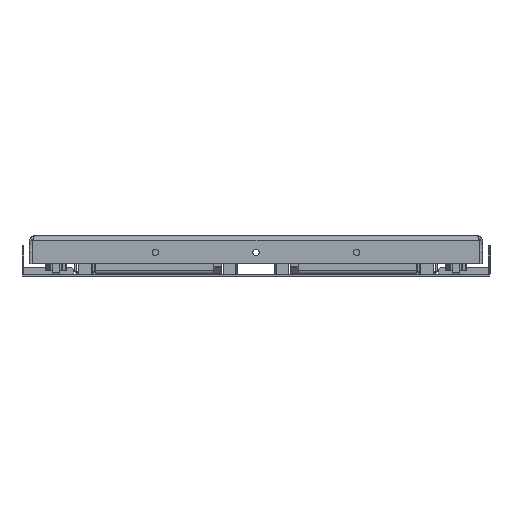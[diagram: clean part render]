
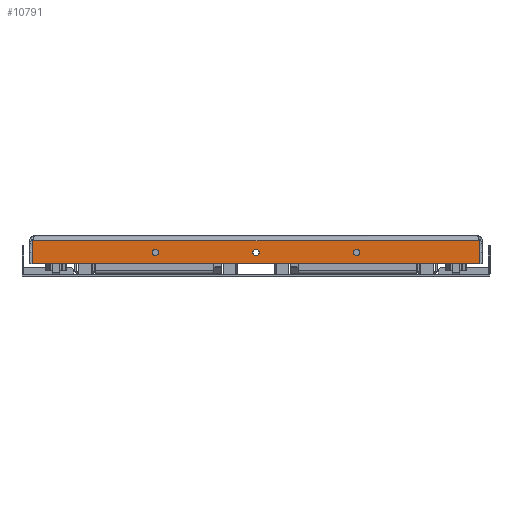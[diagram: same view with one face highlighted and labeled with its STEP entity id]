
A CAD part, left-side view. The second image highlights one B-rep face of the part: STEP entity #10791.
In plain terms, the highlighted planar face has unit normal (-1, 0, 0) as drawn and (0, -1, 0) by its records, which use the part's own axes.
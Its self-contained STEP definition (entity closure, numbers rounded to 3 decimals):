
#541=PLANE('',#11809);
#1217=LINE('',#17152,#2201);
#1233=LINE('',#17285,#2217);
#1235=LINE('',#17289,#2219);
#1236=LINE('',#17291,#2220);
#1237=LINE('',#17293,#2221);
#1238=LINE('',#17294,#2222);
#2201=VECTOR('',#13962,10.);
#2217=VECTOR('',#13990,10.);
#2219=VECTOR('',#13994,10.);
#2220=VECTOR('',#13995,10.);
#2221=VECTOR('',#13996,10.);
#2222=VECTOR('',#13997,10.);
#2721=FACE_BOUND('',#3772,.T.);
#2722=FACE_BOUND('',#3773,.T.);
#2723=FACE_BOUND('',#3774,.T.);
#3121=FACE_OUTER_BOUND('',#3771,.T.);
#3771=EDGE_LOOP('',(#8640,#8641,#8642,#8643,#8644,#8645));
#3772=EDGE_LOOP('',(#8646));
#3773=EDGE_LOOP('',(#8647));
#3774=EDGE_LOOP('',(#8648));
#4218=CIRCLE('',#11385,6.25);
#4220=CIRCLE('',#11388,6.25);
#4222=CIRCLE('',#11391,6.25);
#4721=VERTEX_POINT('',#15810);
#4723=VERTEX_POINT('',#15815);
#4725=VERTEX_POINT('',#15820);
#5152=VERTEX_POINT('',#17150);
#5153=VERTEX_POINT('',#17151);
#5173=VERTEX_POINT('',#17284);
#5174=VERTEX_POINT('',#17288);
#5175=VERTEX_POINT('',#17290);
#5176=VERTEX_POINT('',#17292);
#5792=EDGE_CURVE('',#4721,#4721,#4218,.T.);
#5794=EDGE_CURVE('',#4723,#4723,#4220,.T.);
#5796=EDGE_CURVE('',#4725,#4725,#4222,.T.);
#6431=EDGE_CURVE('',#5152,#5153,#1217,.T.);
#6458=EDGE_CURVE('',#5152,#5173,#1233,.T.);
#6460=EDGE_CURVE('',#5153,#5174,#1235,.T.);
#6461=EDGE_CURVE('',#5174,#5175,#1236,.T.);
#6462=EDGE_CURVE('',#5176,#5175,#1237,.T.);
#6463=EDGE_CURVE('',#5173,#5176,#1238,.T.);
#8640=ORIENTED_EDGE('',*,*,#6431,.T.);
#8641=ORIENTED_EDGE('',*,*,#6460,.T.);
#8642=ORIENTED_EDGE('',*,*,#6461,.T.);
#8643=ORIENTED_EDGE('',*,*,#6462,.F.);
#8644=ORIENTED_EDGE('',*,*,#6463,.F.);
#8645=ORIENTED_EDGE('',*,*,#6458,.F.);
#8646=ORIENTED_EDGE('',*,*,#5792,.T.);
#8647=ORIENTED_EDGE('',*,*,#5794,.T.);
#8648=ORIENTED_EDGE('',*,*,#5796,.T.);
#10791=ADVANCED_FACE('',(#3121,#2721,#2722,#2723),#541,.T.);
#11385=AXIS2_PLACEMENT_3D('',#15811,#12689,#12690);
#11388=AXIS2_PLACEMENT_3D('',#15816,#12695,#12696);
#11391=AXIS2_PLACEMENT_3D('',#15821,#12701,#12702);
#11809=AXIS2_PLACEMENT_3D('',#17287,#13992,#13993);
#12689=DIRECTION('center_axis',(0.,1.,0.));
#12690=DIRECTION('ref_axis',(1.,0.,0.));
#12695=DIRECTION('center_axis',(0.,1.,0.));
#12696=DIRECTION('ref_axis',(1.,0.,0.));
#12701=DIRECTION('center_axis',(0.,1.,0.));
#12702=DIRECTION('ref_axis',(1.,0.,0.));
#13962=DIRECTION('',(-0.057,0.,0.998));
#13990=DIRECTION('',(0.,0.,-1.));
#13992=DIRECTION('center_axis',(0.,-1.,0.));
#13993=DIRECTION('ref_axis',(1.,0.,0.));
#13994=DIRECTION('',(-1.,0.,0.));
#13995=DIRECTION('',(-0.057,0.,-0.998));
#13996=DIRECTION('',(0.,0.,1.));
#13997=DIRECTION('',(-1.,0.,0.));
#15810=CARTESIAN_POINT('',(206.25,-750.,-28.));
#15811=CARTESIAN_POINT('Origin',(200.,-750.,-28.));
#15815=CARTESIAN_POINT('',(6.25,-750.,-28.));
#15816=CARTESIAN_POINT('Origin',(0.,-750.,-28.));
#15820=CARTESIAN_POINT('',(-193.75,-750.,-28.));
#15821=CARTESIAN_POINT('Origin',(-200.,-750.,-28.));
#17150=CARTESIAN_POINT('',(444.5,-750.,-21.413));
#17151=CARTESIAN_POINT('',(443.562,-750.,-5.));
#17152=CARTESIAN_POINT('',(443.808,-750.,-9.298));
#17284=CARTESIAN_POINT('',(444.5,-750.,-50.));
#17285=CARTESIAN_POINT('',(444.5,-750.,-5.));
#17287=CARTESIAN_POINT('Origin',(0.,-750.,-22.504));
#17288=CARTESIAN_POINT('',(-443.562,-750.,-5.));
#17289=CARTESIAN_POINT('',(0.,-750.,-5.));
#17290=CARTESIAN_POINT('',(-444.5,-750.,-21.413));
#17291=CARTESIAN_POINT('',(-443.808,-750.,-9.298));
#17292=CARTESIAN_POINT('',(-444.5,-750.,-50.));
#17293=CARTESIAN_POINT('',(-444.5,-750.,-5.));
#17294=CARTESIAN_POINT('',(444.5,-750.,-50.));
